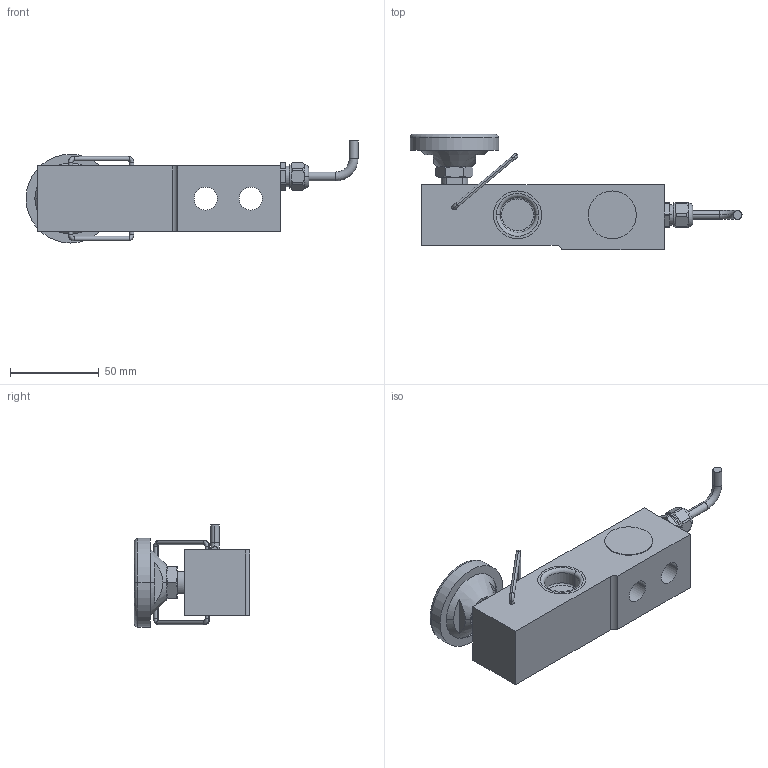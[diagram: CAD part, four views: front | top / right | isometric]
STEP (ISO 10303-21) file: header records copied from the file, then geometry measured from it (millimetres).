
FILE_DESCRIPTION((''),'2;1');
FILE_NAME('72208674-0745A-2200KG_SW0002','2014-07-28T',('wang-379'),(''),'PRO/ENGINEER BY PARAMETRIC TECHNOLOGY CORPORATION, 2013320','PRO/ENGINEER BY PARAMETRIC TECHNOLOGY CORPORATION, 2013320','');
FILE_SCHEMA(('CONFIG_CONTROL_DESIGN'));
Length unit declared in the file: millimetre
Products named in the file (1): 72208674-0745A-2200KG_SW0002
Bounding box: 187 x 64.99 x 57.47 mm (x, y, z)
Volume: 186330.7 mm3; surface area: 37980.1 mm2
Topology: 3 solids, 3 shells, 197 faces, 488 edges, 311 vertices
Faces by surface type: cylinder 65, plane 62, torus 36, cone 32, sphere 2
Entity records: 6458 total; most frequent: CARTESIAN_POINT 1606, DIRECTION 1084, ORIENTED_EDGE 972, EDGE_CURVE 486, AXIS2_PLACEMENT_3D 457, VERTEX_POINT 311, CIRCLE 260, EDGE_LOOP 221
